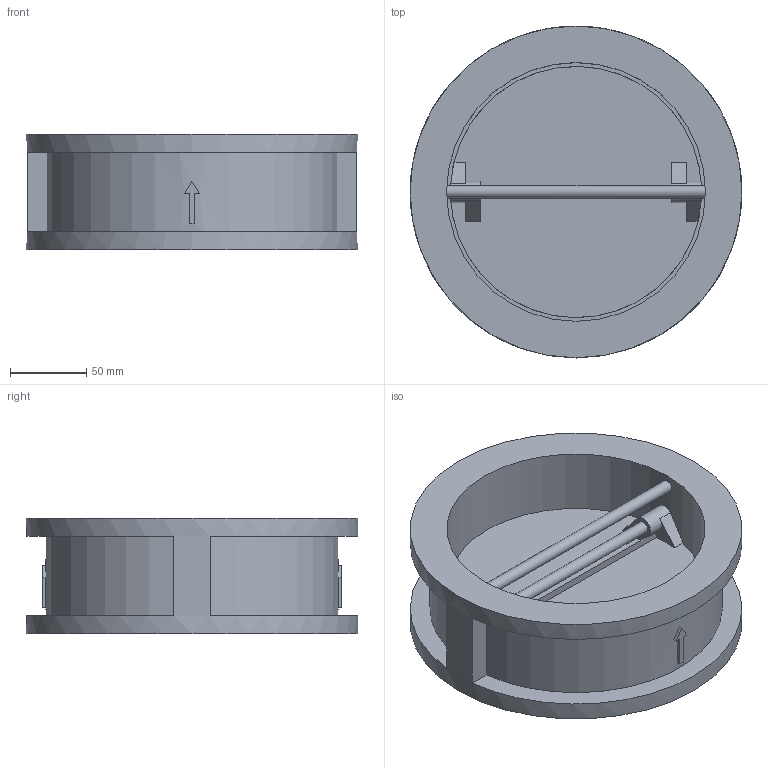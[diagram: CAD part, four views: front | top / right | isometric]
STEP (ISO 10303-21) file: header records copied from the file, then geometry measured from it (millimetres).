
FILE_DESCRIPTION(('STEP AP203'), '1');
FILE_NAME('孰囡囗 钺疣蝽 溻篚耱忸瘅囹 戾骠豚眦邂 010C.Y DN150', '', ('UNSPECIFIED'), ('UNSPECIFIED'), 'ASCON STEP Converter 1.6', 'ASCON Math Kernel', '');
FILE_SCHEMA(('CONFIG_CONTROL_DESIGN'));
Length unit declared in the file: millimetre
Bounding box: 218 x 218 x 76 mm (x, y, z)
Volume: 1103430.9 mm3; surface area: 199323 mm2
Topology: 1 solids, 1 shells, 73 faces, 201 edges, 132 vertices
Faces by surface type: plane 55, cylinder 16, cone 2
Full cylindrical faces by diameter (mm): 8 x4, 170 x1, 218 x1
Entity records: 3640 total; most frequent: CARTESIAN_POINT 1182, ORIENTED_EDGE 388, DIRECTION 360, EDGE_CURVE 194, VERTEX_POINT 132, LINE 124, VECTOR 124, AXIS2_PLACEMENT_3D 118
